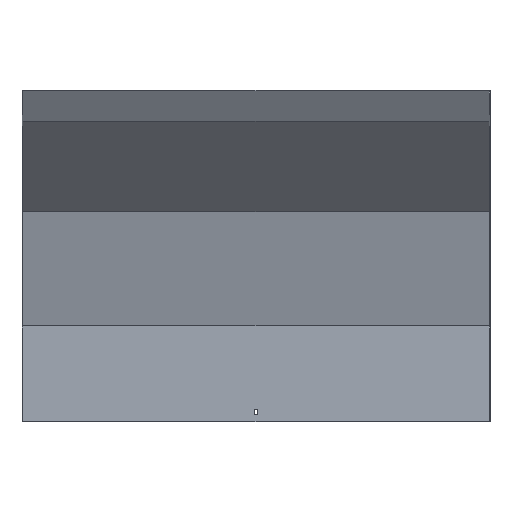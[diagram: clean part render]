
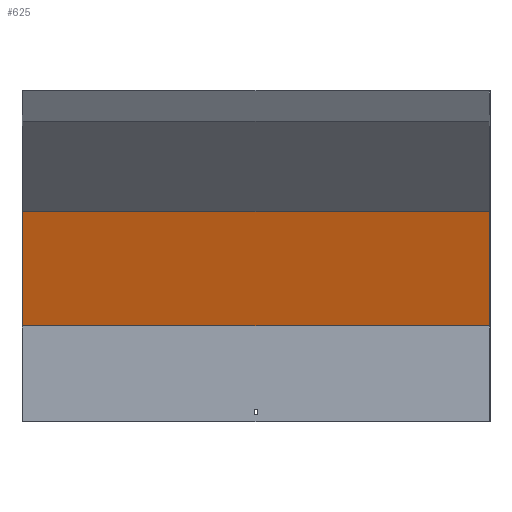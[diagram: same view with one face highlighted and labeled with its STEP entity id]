
A CAD part, front view. The second image highlights one B-rep face of the part: STEP entity #625.
In plain terms, the highlighted planar face has unit normal (0, -0.966, -0.259).
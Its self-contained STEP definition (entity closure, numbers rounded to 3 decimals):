
#44 = DIRECTION ( 'NONE',  ( 0., -0.259, 0.966 ) ) ;
#56 = LINE ( 'NONE', #340, #182 ) ;
#69 = CARTESIAN_POINT ( 'NONE',  ( -400., 18.5, 165.436 ) ) ;
#168 = CARTESIAN_POINT ( 'NONE',  ( 400., 17.87, 167.788 ) ) ;
#182 = VECTOR ( 'NONE', #682, 1000. ) ;
#184 = EDGE_CURVE ( 'NONE', #493, #1073, #361, .T. ) ;
#209 = CARTESIAN_POINT ( 'NONE',  ( 401.5, 18.5, 165.436 ) ) ;
#220 = DIRECTION ( 'NONE',  ( 0., -0.966, -0.259 ) ) ;
#274 = EDGE_CURVE ( 'NONE', #514, #1053, #376, .T. ) ;
#284 = FACE_OUTER_BOUND ( 'NONE', #559, .T. ) ;
#299 = EDGE_CURVE ( 'NONE', #493, #514, #721, .T. ) ;
#340 = CARTESIAN_POINT ( 'NONE',  ( 401.5, -33.883, 360.932 ) ) ;
#361 = LINE ( 'NONE', #168, #1070 ) ;
#376 = LINE ( 'NONE', #715, #810 ) ;
#394 = CARTESIAN_POINT ( 'NONE',  ( 400., 18.5, 165.436 ) ) ;
#420 = DIRECTION ( 'NONE',  ( 0., -0.259, 0.966 ) ) ;
#440 = AXIS2_PLACEMENT_3D ( 'NONE', #1098, #220, #829 ) ;
#447 = ORIENTED_EDGE ( 'NONE', *, *, #274, .F. ) ;
#461 = EDGE_CURVE ( 'NONE', #1073, #1053, #56, .T. ) ;
#493 = VERTEX_POINT ( 'NONE', #394 ) ;
#514 = VERTEX_POINT ( 'NONE', #69 ) ;
#559 = EDGE_LOOP ( 'NONE', ( #447, #595, #970, #817 ) ) ;
#595 = ORIENTED_EDGE ( 'NONE', *, *, #299, .F. ) ;
#625 = ADVANCED_FACE ( 'NONE', ( #284 ), #1004, .T. ) ;
#682 = DIRECTION ( 'NONE',  ( -1., 0., 0. ) ) ;
#715 = CARTESIAN_POINT ( 'NONE',  ( -400., 17.87, 167.788 ) ) ;
#719 = CARTESIAN_POINT ( 'NONE',  ( -400., -33.883, 360.932 ) ) ;
#721 = LINE ( 'NONE', #209, #1049 ) ;
#810 = VECTOR ( 'NONE', #44, 1000. ) ;
#814 = DIRECTION ( 'NONE',  ( -1., 0., 0. ) ) ;
#817 = ORIENTED_EDGE ( 'NONE', *, *, #461, .T. ) ;
#818 = CARTESIAN_POINT ( 'NONE',  ( 400., -33.883, 360.932 ) ) ;
#829 = DIRECTION ( 'NONE',  ( 0., 0.259, -0.966 ) ) ;
#970 = ORIENTED_EDGE ( 'NONE', *, *, #184, .T. ) ;
#1004 = PLANE ( 'NONE',  #440 ) ;
#1049 = VECTOR ( 'NONE', #814, 1000. ) ;
#1053 = VERTEX_POINT ( 'NONE', #719 ) ;
#1070 = VECTOR ( 'NONE', #420, 1000. ) ;
#1073 = VERTEX_POINT ( 'NONE', #818 ) ;
#1098 = CARTESIAN_POINT ( 'NONE',  ( 401.5, 17.87, 167.788 ) ) ;
